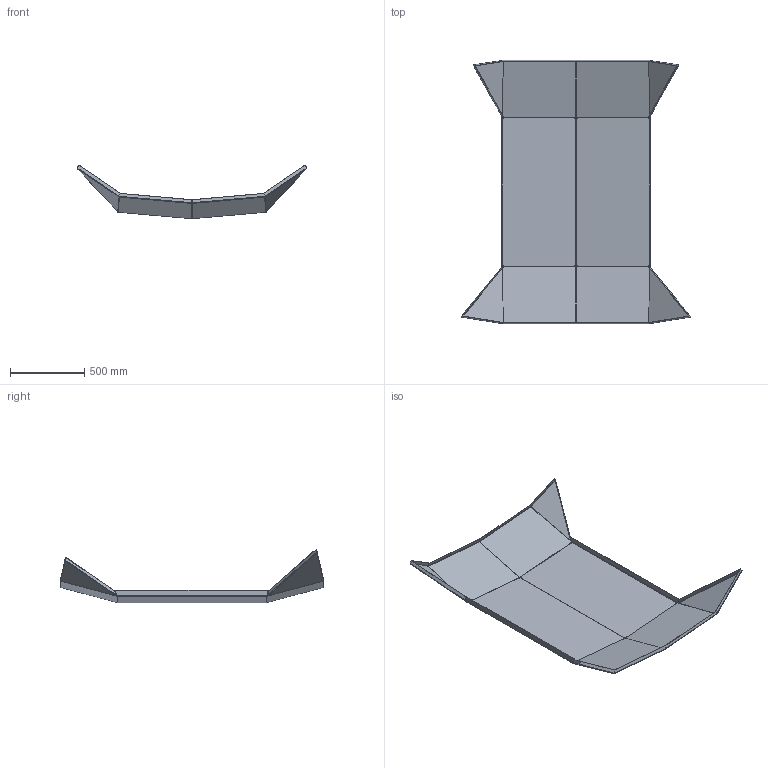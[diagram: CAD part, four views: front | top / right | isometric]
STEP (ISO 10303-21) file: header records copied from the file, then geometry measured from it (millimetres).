
FILE_DESCRIPTION((''),'2;1');
FILE_NAME('F:\IV-Temp\Arbeitsbereich\IVF30_Wanne.stp','2008-11-06T06:54:43',('andreas'),(''),'Autodesk Inventor 2009','Autodesk Inventor 2009','');
FILE_SCHEMA(('AUTOMOTIVE_DESIGN { 1 0 10303 214 1 1 1 1 }'));
Length unit declared in the file: millimetre
Products named in the file (1): IVF30_Wanne
Bounding box: 1544.38 x 1770.94 x 359.33 mm (x, y, z)
Volume: 3321021.4 mm3; surface area: 4442635.9 mm2
Topology: 1 solids, 1 shells, 210 faces, 531 edges, 323 vertices
Faces by surface type: bspline 100, plane 84, cylinder 26
Entity records: 7643 total; most frequent: CARTESIAN_POINT 3127, ORIENTED_EDGE 1062, DIRECTION 679, EDGE_CURVE 531, VECTOR 401, LINE 401, VERTEX_POINT 323, EDGE_LOOP 210
